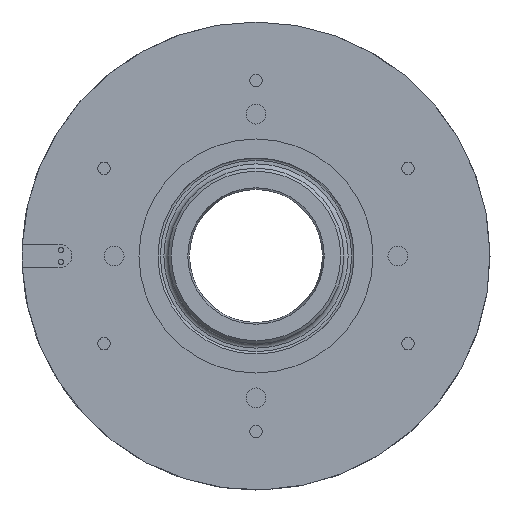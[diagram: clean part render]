
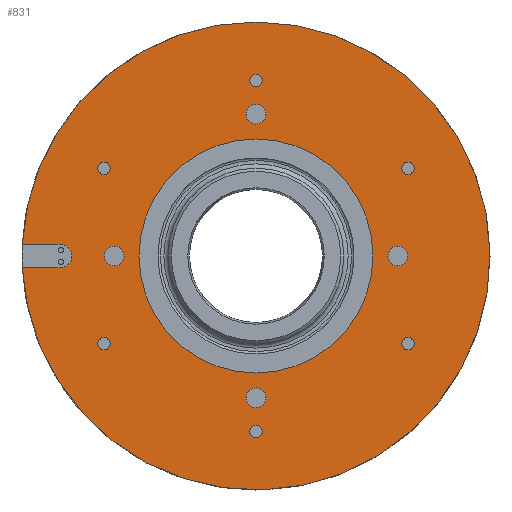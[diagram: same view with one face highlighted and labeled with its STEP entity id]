
A CAD part, left-side view. The second image highlights one B-rep face of the part: STEP entity #831.
In plain terms, the highlighted planar face has unit normal (-1, 0, 0).
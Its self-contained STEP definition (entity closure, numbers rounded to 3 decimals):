
#3 = CARTESIAN_POINT ( 'NONE',  ( -4., -51.962, 30. ) ) ;
#12 = ORIENTED_EDGE ( 'NONE', *, *, #1211, .T. ) ;
#14 = CARTESIAN_POINT ( 'NONE',  ( -4., -48.5, 0. ) ) ;
#42 = EDGE_CURVE ( 'NONE', #1572, #1572, #107, .T. ) ;
#49 = EDGE_LOOP ( 'NONE', ( #912, #1594, #12, #1129 ) ) ;
#72 = CARTESIAN_POINT ( 'NONE',  ( -4., 51.962, -30. ) ) ;
#79 = CIRCLE ( 'NONE', #1061, 2.1 ) ;
#84 = LINE ( 'NONE', #388, #1822 ) ;
#92 = DIRECTION ( 'NONE',  ( 0., 0., 1. ) ) ;
#107 = CIRCLE ( 'NONE', #289, 2.1 ) ;
#136 = DIRECTION ( 'NONE',  ( 1., 0., 0. ) ) ;
#147 = FACE_BOUND ( 'NONE', #780, .T. ) ;
#150 = VERTEX_POINT ( 'NONE', #884 ) ;
#157 = DIRECTION ( 'NONE',  ( 0., 0., 1. ) ) ;
#165 = CARTESIAN_POINT ( 'NONE',  ( -4., 48.5, 0. ) ) ;
#181 = AXIS2_PLACEMENT_3D ( 'NONE', #1146, #1728, #157 ) ;
#191 = VERTEX_POINT ( 'NONE', #1358 ) ;
#194 = DIRECTION ( 'NONE',  ( -1., 0., 0. ) ) ;
#207 = VERTEX_POINT ( 'NONE', #1364 ) ;
#215 = DIRECTION ( 'NONE',  ( 0., 0., 1. ) ) ;
#220 = ORIENTED_EDGE ( 'NONE', *, *, #1120, .F. ) ;
#226 = CARTESIAN_POINT ( 'NONE',  ( -4., 0., 60. ) ) ;
#229 = VERTEX_POINT ( 'NONE', #751 ) ;
#232 = CARTESIAN_POINT ( 'NONE',  ( -4., 0., -48.5 ) ) ;
#237 = EDGE_LOOP ( 'NONE', ( #220 ) ) ;
#239 = EDGE_CURVE ( 'NONE', #431, #229, #1114, .T. ) ;
#263 = AXIS2_PLACEMENT_3D ( 'NONE', #436, #597, #1155 ) ;
#271 = EDGE_LOOP ( 'NONE', ( #882 ) ) ;
#289 = AXIS2_PLACEMENT_3D ( 'NONE', #1550, #1281, #398 ) ;
#293 = CIRCLE ( 'NONE', #1614, 2.1 ) ;
#294 = CIRCLE ( 'NONE', #263, 40. ) ;
#317 = LINE ( 'NONE', #901, #875 ) ;
#319 = FACE_BOUND ( 'NONE', #1513, .T. ) ;
#329 = EDGE_CURVE ( 'NONE', #1171, #1171, #79, .T. ) ;
#339 = CARTESIAN_POINT ( 'NONE',  ( -4., -51.962, -27.9 ) ) ;
#384 = AXIS2_PLACEMENT_3D ( 'NONE', #1504, #194, #1521 ) ;
#388 = CARTESIAN_POINT ( 'NONE',  ( -4., 67., -4. ) ) ;
#398 = DIRECTION ( 'NONE',  ( 0., 0., 1. ) ) ;
#403 = ORIENTED_EDGE ( 'NONE', *, *, #1602, .F. ) ;
#404 = DIRECTION ( 'NONE',  ( 0., 0., 1. ) ) ;
#419 = CIRCLE ( 'NONE', #1793, 2.1 ) ;
#431 = VERTEX_POINT ( 'NONE', #952 ) ;
#432 = PLANE ( 'NONE',  #1849 ) ;
#436 = CARTESIAN_POINT ( 'NONE',  ( -4., 0., 0. ) ) ;
#450 = CARTESIAN_POINT ( 'NONE',  ( -4., -51.962, -30. ) ) ;
#461 = DIRECTION ( 'NONE',  ( 0., 0., 1. ) ) ;
#475 = EDGE_CURVE ( 'NONE', #553, #553, #1337, .T. ) ;
#531 = EDGE_LOOP ( 'NONE', ( #583 ) ) ;
#539 = CIRCLE ( 'NONE', #1886, 2.1 ) ;
#548 = ORIENTED_EDGE ( 'NONE', *, *, #1378, .F. ) ;
#553 = VERTEX_POINT ( 'NONE', #1471 ) ;
#572 = CIRCLE ( 'NONE', #724, 3.4 ) ;
#574 = FACE_BOUND ( 'NONE', #237, .T. ) ;
#581 = DIRECTION ( 'NONE',  ( -1., 0., 0. ) ) ;
#583 = ORIENTED_EDGE ( 'NONE', *, *, #1847, .F. ) ;
#595 = DIRECTION ( 'NONE',  ( -1., 0., 0. ) ) ;
#597 = DIRECTION ( 'NONE',  ( -1., 0., 0. ) ) ;
#603 = FACE_BOUND ( 'NONE', #1333, .T. ) ;
#619 = ORIENTED_EDGE ( 'NONE', *, *, #1827, .F. ) ;
#621 = VERTEX_POINT ( 'NONE', #1772 ) ;
#652 = CARTESIAN_POINT ( 'NONE',  ( -4., 51.962, 30. ) ) ;
#696 = DIRECTION ( 'NONE',  ( 0., 0., 1. ) ) ;
#720 = CIRCLE ( 'NONE', #878, 3.4 ) ;
#723 = DIRECTION ( 'NONE',  ( 0., 1., 0. ) ) ;
#724 = AXIS2_PLACEMENT_3D ( 'NONE', #232, #942, #215 ) ;
#729 = CARTESIAN_POINT ( 'NONE',  ( -4., 0., -57.9 ) ) ;
#743 = FACE_BOUND ( 'NONE', #1874, .T. ) ;
#751 = CARTESIAN_POINT ( 'NONE',  ( -4., 67., 4. ) ) ;
#765 = VERTEX_POINT ( 'NONE', #1780 ) ;
#780 = EDGE_LOOP ( 'NONE', ( #1415 ) ) ;
#813 = AXIS2_PLACEMENT_3D ( 'NONE', #226, #1846, #92 ) ;
#815 = VERTEX_POINT ( 'NONE', #1884 ) ;
#831 = ADVANCED_FACE ( 'NONE', ( #1456, #1048, #1640, #319, #603, #574, #1038, #859, #743, #1448, #903, #147 ), #432, .F. ) ;
#859 = FACE_BOUND ( 'NONE', #1553, .T. ) ;
#875 = VECTOR ( 'NONE', #723, 1000. ) ;
#878 = AXIS2_PLACEMENT_3D ( 'NONE', #1313, #1046, #461 ) ;
#880 = DIRECTION ( 'NONE',  ( -1., 0., 0. ) ) ;
#882 = ORIENTED_EDGE ( 'NONE', *, *, #475, .F. ) ;
#884 = CARTESIAN_POINT ( 'NONE',  ( -4., 51.962, -27.9 ) ) ;
#901 = CARTESIAN_POINT ( 'NONE',  ( -4., 67., 4. ) ) ;
#902 = EDGE_LOOP ( 'NONE', ( #1806 ) ) ;
#903 = FACE_BOUND ( 'NONE', #531, .T. ) ;
#911 = CIRCLE ( 'NONE', #181, 80. ) ;
#912 = ORIENTED_EDGE ( 'NONE', *, *, #239, .F. ) ;
#914 = AXIS2_PLACEMENT_3D ( 'NONE', #14, #1460, #696 ) ;
#942 = DIRECTION ( 'NONE',  ( -1., 0., 0. ) ) ;
#952 = CARTESIAN_POINT ( 'NONE',  ( -4., 67., -4. ) ) ;
#961 = DIRECTION ( 'NONE',  ( -1., 0., 0. ) ) ;
#995 = ORIENTED_EDGE ( 'NONE', *, *, #42, .F. ) ;
#1017 = DIRECTION ( 'NONE',  ( 0., 0., -1. ) ) ;
#1038 = FACE_BOUND ( 'NONE', #1147, .T. ) ;
#1046 = DIRECTION ( 'NONE',  ( -1., 0., 0. ) ) ;
#1048 = FACE_BOUND ( 'NONE', #271, .T. ) ;
#1060 = EDGE_CURVE ( 'NONE', #1490, #1490, #720, .T. ) ;
#1061 = AXIS2_PLACEMENT_3D ( 'NONE', #652, #961, #1395 ) ;
#1079 = ORIENTED_EDGE ( 'NONE', *, *, #329, .F. ) ;
#1113 = EDGE_CURVE ( 'NONE', #229, #1327, #317, .T. ) ;
#1114 = CIRCLE ( 'NONE', #384, 4. ) ;
#1120 = EDGE_CURVE ( 'NONE', #207, #207, #293, .T. ) ;
#1129 = ORIENTED_EDGE ( 'NONE', *, *, #1113, .F. ) ;
#1134 = DIRECTION ( 'NONE',  ( -1., 0., 0. ) ) ;
#1146 = CARTESIAN_POINT ( 'NONE',  ( -4., 0., 0. ) ) ;
#1147 = EDGE_LOOP ( 'NONE', ( #1744 ) ) ;
#1155 = DIRECTION ( 'NONE',  ( 0., 0., 1. ) ) ;
#1171 = VERTEX_POINT ( 'NONE', #1585 ) ;
#1175 = EDGE_CURVE ( 'NONE', #1651, #1651, #419, .T. ) ;
#1202 = VERTEX_POINT ( 'NONE', #1781 ) ;
#1211 = EDGE_CURVE ( 'NONE', #815, #1327, #911, .T. ) ;
#1213 = AXIS2_PLACEMENT_3D ( 'NONE', #165, #1134, #404 ) ;
#1246 = CIRCLE ( 'NONE', #813, 2.1 ) ;
#1281 = DIRECTION ( 'NONE',  ( -1., 0., 0. ) ) ;
#1295 = DIRECTION ( 'NONE',  ( 0., 0., 1. ) ) ;
#1313 = CARTESIAN_POINT ( 'NONE',  ( -4., 0., 48.5 ) ) ;
#1318 = EDGE_CURVE ( 'NONE', #815, #431, #84, .T. ) ;
#1321 = DIRECTION ( 'NONE',  ( 0., 0., 1. ) ) ;
#1327 = VERTEX_POINT ( 'NONE', #1859 ) ;
#1333 = EDGE_LOOP ( 'NONE', ( #548 ) ) ;
#1337 = CIRCLE ( 'NONE', #1213, 3.4 ) ;
#1358 = CARTESIAN_POINT ( 'NONE',  ( -4., 0., 40. ) ) ;
#1364 = CARTESIAN_POINT ( 'NONE',  ( -4., -51.962, 32.1 ) ) ;
#1378 = EDGE_CURVE ( 'NONE', #1202, #1202, #1246, .T. ) ;
#1395 = DIRECTION ( 'NONE',  ( 0., 0., 1. ) ) ;
#1415 = ORIENTED_EDGE ( 'NONE', *, *, #1060, .F. ) ;
#1424 = DIRECTION ( 'NONE',  ( 0., -1., 0. ) ) ;
#1448 = FACE_OUTER_BOUND ( 'NONE', #49, .T. ) ;
#1456 = FACE_BOUND ( 'NONE', #902, .T. ) ;
#1460 = DIRECTION ( 'NONE',  ( -1., 0., 0. ) ) ;
#1471 = CARTESIAN_POINT ( 'NONE',  ( -4., 48.5, 3.4 ) ) ;
#1486 = CARTESIAN_POINT ( 'NONE',  ( -4., 80., 0. ) ) ;
#1490 = VERTEX_POINT ( 'NONE', #1658 ) ;
#1504 = CARTESIAN_POINT ( 'NONE',  ( -4., 67., 0. ) ) ;
#1513 = EDGE_LOOP ( 'NONE', ( #1079 ) ) ;
#1521 = DIRECTION ( 'NONE',  ( 0., 0., 1. ) ) ;
#1550 = CARTESIAN_POINT ( 'NONE',  ( -4., 0., -60. ) ) ;
#1553 = EDGE_LOOP ( 'NONE', ( #995 ) ) ;
#1572 = VERTEX_POINT ( 'NONE', #729 ) ;
#1585 = CARTESIAN_POINT ( 'NONE',  ( -4., 51.962, 32.1 ) ) ;
#1594 = ORIENTED_EDGE ( 'NONE', *, *, #1318, .F. ) ;
#1602 = EDGE_CURVE ( 'NONE', #191, #191, #294, .T. ) ;
#1614 = AXIS2_PLACEMENT_3D ( 'NONE', #3, #880, #1321 ) ;
#1619 = CIRCLE ( 'NONE', #914, 3.4 ) ;
#1640 = FACE_BOUND ( 'NONE', #1713, .T. ) ;
#1651 = VERTEX_POINT ( 'NONE', #339 ) ;
#1658 = CARTESIAN_POINT ( 'NONE',  ( -4., 0., 51.9 ) ) ;
#1713 = EDGE_LOOP ( 'NONE', ( #619 ) ) ;
#1728 = DIRECTION ( 'NONE',  ( -1., 0., 0. ) ) ;
#1739 = DIRECTION ( 'NONE',  ( 0., 0., 1. ) ) ;
#1744 = ORIENTED_EDGE ( 'NONE', *, *, #1175, .F. ) ;
#1772 = CARTESIAN_POINT ( 'NONE',  ( -4., -48.5, 3.4 ) ) ;
#1780 = CARTESIAN_POINT ( 'NONE',  ( -4., 0., -45.1 ) ) ;
#1781 = CARTESIAN_POINT ( 'NONE',  ( -4., 0., 62.1 ) ) ;
#1793 = AXIS2_PLACEMENT_3D ( 'NONE', #450, #581, #1739 ) ;
#1794 = EDGE_CURVE ( 'NONE', #765, #765, #572, .T. ) ;
#1806 = ORIENTED_EDGE ( 'NONE', *, *, #1794, .F. ) ;
#1822 = VECTOR ( 'NONE', #1424, 1000. ) ;
#1827 = EDGE_CURVE ( 'NONE', #150, #150, #539, .T. ) ;
#1846 = DIRECTION ( 'NONE',  ( -1., 0., 0. ) ) ;
#1847 = EDGE_CURVE ( 'NONE', #621, #621, #1619, .T. ) ;
#1849 = AXIS2_PLACEMENT_3D ( 'NONE', #1486, #136, #1017 ) ;
#1859 = CARTESIAN_POINT ( 'NONE',  ( -4., 79.9, 4. ) ) ;
#1874 = EDGE_LOOP ( 'NONE', ( #403 ) ) ;
#1884 = CARTESIAN_POINT ( 'NONE',  ( -4., 79.9, -4. ) ) ;
#1886 = AXIS2_PLACEMENT_3D ( 'NONE', #72, #595, #1295 ) ;
